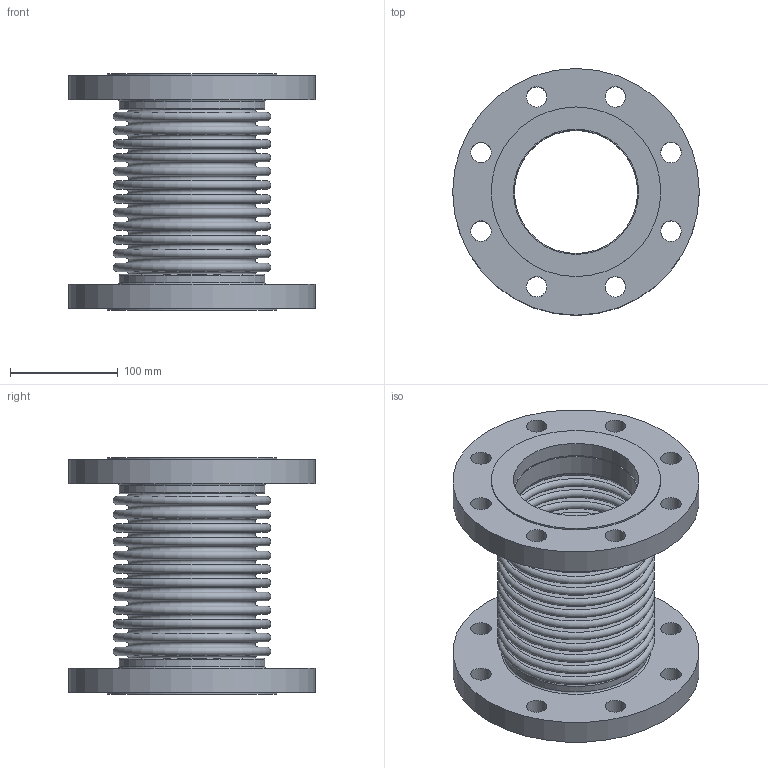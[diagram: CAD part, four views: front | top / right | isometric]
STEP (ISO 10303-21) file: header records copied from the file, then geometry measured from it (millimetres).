
FILE_DESCRIPTION(/* description */ ('EXPANSION JOINT,SINGLE, FLANGED ENDS,4 INCH NOMINAL','CAx-IF Rec.Pracs.---Representation and Presentation of Product Manufacturing Information (PMI)---4.0---2014-10-13'),/* implementation_level */ '2;1');
FILE_NAME(/* name */ 'US-04-12-300L-FLANGED ENDS.stp',/* time_stamp */ '2026-07-31T16:55:36-05:00',/* author */ ('Guadalupe'),/* organization */ (''),/* preprocessor_version */ 'ST-DEVELOPER v20.1',/* originating_system */ 'Autodesk Inventor 2026',/* authorisation */ '');
FILE_SCHEMA (('AP242_MANAGED_MODEL_BASED_3D_ENGINEERING_MIM_LF { 1 0 10303 442 2 1 4 }'));
Length unit declared in the file: inch
Products named in the file (3): 04-300L; 04-300L-02; 04-300L-01
Assembly tree (3 placements, depth 2):
  04-300L
    04-300L-02  x2
    04-300L-01
Bounding box: 228.6 x 228.6 x 218.95 mm (x, y, z)
Volume: 1646349.6 mm3; surface area: 582773 mm2
Topology: 5 solids, 5 shells, 144 faces, 246 edges, 164 vertices
Faces by surface type: plane 62, torus 54, cylinder 28
Full cylindrical faces by diameter (mm): 19.05 x16, 114.3 x2, 116.078 x2, 117.348 x2, 134.874 x2, 157.226 x2, 228.6 x2
Entity records: 3294 total; most frequent: DIRECTION 682, CARTESIAN_POINT 489, ORIENTED_EDGE 408, AXIS2_PLACEMENT_3D 333, EDGE_CURVE 204, EDGE_LOOP 200, CIRCLE 188, VERTEX_POINT 136
